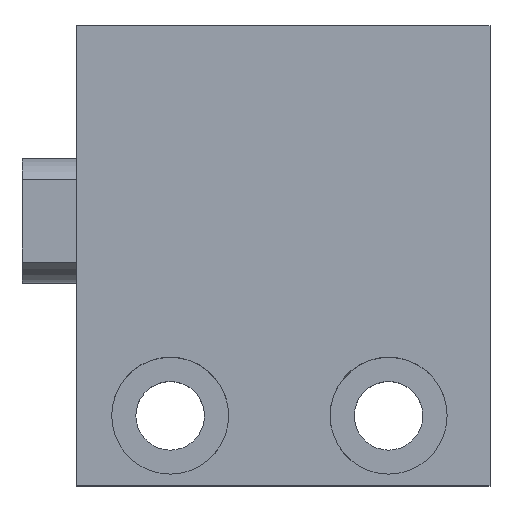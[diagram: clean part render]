
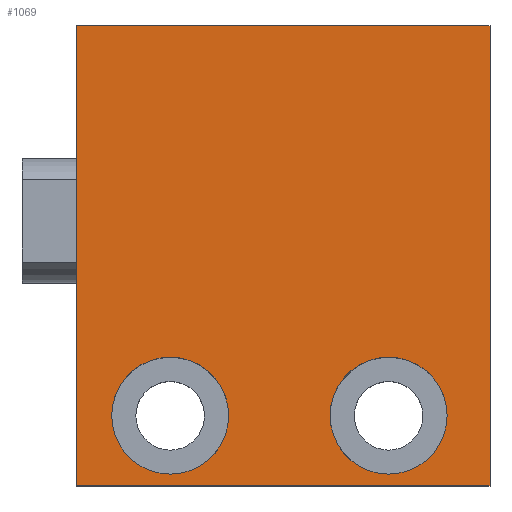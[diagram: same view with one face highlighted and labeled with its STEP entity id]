
A CAD part, top view. The second image highlights one B-rep face of the part: STEP entity #1069.
In plain terms, the highlighted planar face has unit normal (0, 0, 1).
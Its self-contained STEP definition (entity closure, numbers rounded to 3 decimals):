
#12 = CARTESIAN_POINT ( 'NONE',  ( 26.5, -17., 10.5 ) ) ;
#45 = VECTOR ( 'NONE', #2187, 1000. ) ;
#114 = FACE_BOUND ( 'NONE', #845, .T. ) ;
#157 = ORIENTED_EDGE ( 'NONE', *, *, #956, .F. ) ;
#163 = EDGE_CURVE ( 'NONE', #383, #1783, #2484, .T. ) ;
#308 = CARTESIAN_POINT ( 'NONE',  ( 26.5, -17., 10.5 ) ) ;
#352 = DIRECTION ( 'NONE',  ( 1., 0., 0. ) ) ;
#368 = CARTESIAN_POINT ( 'NONE',  ( 0., -17., 10.5 ) ) ;
#383 = VERTEX_POINT ( 'NONE', #1543 ) ;
#408 = VERTEX_POINT ( 'NONE', #943 ) ;
#469 = CARTESIAN_POINT ( 'NONE',  ( 16.25, -12.5, 10.5 ) ) ;
#480 = ORIENTED_EDGE ( 'NONE', *, *, #163, .F. ) ;
#490 = AXIS2_PLACEMENT_3D ( 'NONE', #2945, #754, #562 ) ;
#493 = VECTOR ( 'NONE', #1553, 1000. ) ;
#527 = LINE ( 'NONE', #12, #1365 ) ;
#562 = DIRECTION ( 'NONE',  ( 1., 0., 0. ) ) ;
#611 = ORIENTED_EDGE ( 'NONE', *, *, #1385, .F. ) ;
#673 = CARTESIAN_POINT ( 'NONE',  ( 9.75, -12.5, 10.5 ) ) ;
#729 = AXIS2_PLACEMENT_3D ( 'NONE', #1033, #2719, #352 ) ;
#754 = DIRECTION ( 'NONE',  ( 0., 0., 1. ) ) ;
#845 = EDGE_LOOP ( 'NONE', ( #2280, #611 ) ) ;
#903 = DIRECTION ( 'NONE',  ( 0., 0., 1. ) ) ;
#943 = CARTESIAN_POINT ( 'NONE',  ( 26.5, 12.5, 10.5 ) ) ;
#956 = EDGE_CURVE ( 'NONE', #2516, #1168, #2572, .T. ) ;
#965 = CARTESIAN_POINT ( 'NONE',  ( 6., -12.5, 10.5 ) ) ;
#1007 = EDGE_CURVE ( 'NONE', #1783, #1617, #2215, .T. ) ;
#1016 = PLANE ( 'NONE',  #2921 ) ;
#1033 = CARTESIAN_POINT ( 'NONE',  ( 20., -12.5, 10.5 ) ) ;
#1069 = ADVANCED_FACE ( 'NONE', ( #1081, #2278, #114 ), #1016, .T. ) ;
#1081 = FACE_OUTER_BOUND ( 'NONE', #2110, .T. ) ;
#1111 = DIRECTION ( 'NONE',  ( -1., 0., 0. ) ) ;
#1168 = VERTEX_POINT ( 'NONE', #1775 ) ;
#1237 = EDGE_LOOP ( 'NONE', ( #2443, #157 ) ) ;
#1313 = CIRCLE ( 'NONE', #2065, 3.75 ) ;
#1365 = VECTOR ( 'NONE', #2194, 1000. ) ;
#1385 = EDGE_CURVE ( 'NONE', #3069, #1638, #1872, .T. ) ;
#1503 = CARTESIAN_POINT ( 'NONE',  ( 2.25, -12.5, 10.5 ) ) ;
#1543 = CARTESIAN_POINT ( 'NONE',  ( 26.5, -17., 10.5 ) ) ;
#1553 = DIRECTION ( 'NONE',  ( -1., 0., 0. ) ) ;
#1579 = CARTESIAN_POINT ( 'NONE',  ( 26.5, -17., 10.5 ) ) ;
#1617 = VERTEX_POINT ( 'NONE', #1939 ) ;
#1638 = VERTEX_POINT ( 'NONE', #673 ) ;
#1693 = DIRECTION ( 'NONE',  ( 1., 0., 0. ) ) ;
#1701 = ORIENTED_EDGE ( 'NONE', *, *, #2449, .T. ) ;
#1775 = CARTESIAN_POINT ( 'NONE',  ( 23.75, -12.5, 10.5 ) ) ;
#1783 = VERTEX_POINT ( 'NONE', #368 ) ;
#1835 = EDGE_CURVE ( 'NONE', #1168, #2516, #2798, .T. ) ;
#1872 = CIRCLE ( 'NONE', #490, 3.75 ) ;
#1939 = CARTESIAN_POINT ( 'NONE',  ( 0., 12.5, 10.5 ) ) ;
#1974 = AXIS2_PLACEMENT_3D ( 'NONE', #3063, #903, #3095 ) ;
#2047 = DIRECTION ( 'NONE',  ( 0., 0., 1. ) ) ;
#2065 = AXIS2_PLACEMENT_3D ( 'NONE', #965, #2841, #1693 ) ;
#2072 = ORIENTED_EDGE ( 'NONE', *, *, #2781, .T. ) ;
#2110 = EDGE_LOOP ( 'NONE', ( #2387, #480, #2072, #1701 ) ) ;
#2187 = DIRECTION ( 'NONE',  ( 0., 1., 0. ) ) ;
#2194 = DIRECTION ( 'NONE',  ( 0., 1., 0. ) ) ;
#2215 = LINE ( 'NONE', #2447, #45 ) ;
#2278 = FACE_BOUND ( 'NONE', #1237, .T. ) ;
#2280 = ORIENTED_EDGE ( 'NONE', *, *, #2510, .F. ) ;
#2387 = ORIENTED_EDGE ( 'NONE', *, *, #1007, .F. ) ;
#2443 = ORIENTED_EDGE ( 'NONE', *, *, #1835, .F. ) ;
#2447 = CARTESIAN_POINT ( 'NONE',  ( 0., -17., 10.5 ) ) ;
#2449 = EDGE_CURVE ( 'NONE', #408, #1617, #2759, .T. ) ;
#2484 = LINE ( 'NONE', #308, #493 ) ;
#2510 = EDGE_CURVE ( 'NONE', #1638, #3069, #1313, .T. ) ;
#2516 = VERTEX_POINT ( 'NONE', #469 ) ;
#2542 = CARTESIAN_POINT ( 'NONE',  ( 26.5, 12.5, 10.5 ) ) ;
#2572 = CIRCLE ( 'NONE', #1974, 3.75 ) ;
#2719 = DIRECTION ( 'NONE',  ( 0., 0., 1. ) ) ;
#2746 = DIRECTION ( 'NONE',  ( 0., 1., 0. ) ) ;
#2753 = VECTOR ( 'NONE', #1111, 1000. ) ;
#2759 = LINE ( 'NONE', #2542, #2753 ) ;
#2781 = EDGE_CURVE ( 'NONE', #383, #408, #527, .T. ) ;
#2798 = CIRCLE ( 'NONE', #729, 3.75 ) ;
#2841 = DIRECTION ( 'NONE',  ( 0., 0., 1. ) ) ;
#2921 = AXIS2_PLACEMENT_3D ( 'NONE', #1579, #2047, #2746 ) ;
#2945 = CARTESIAN_POINT ( 'NONE',  ( 6., -12.5, 10.5 ) ) ;
#3063 = CARTESIAN_POINT ( 'NONE',  ( 20., -12.5, 10.5 ) ) ;
#3069 = VERTEX_POINT ( 'NONE', #1503 ) ;
#3095 = DIRECTION ( 'NONE',  ( 1., 0., 0. ) ) ;
